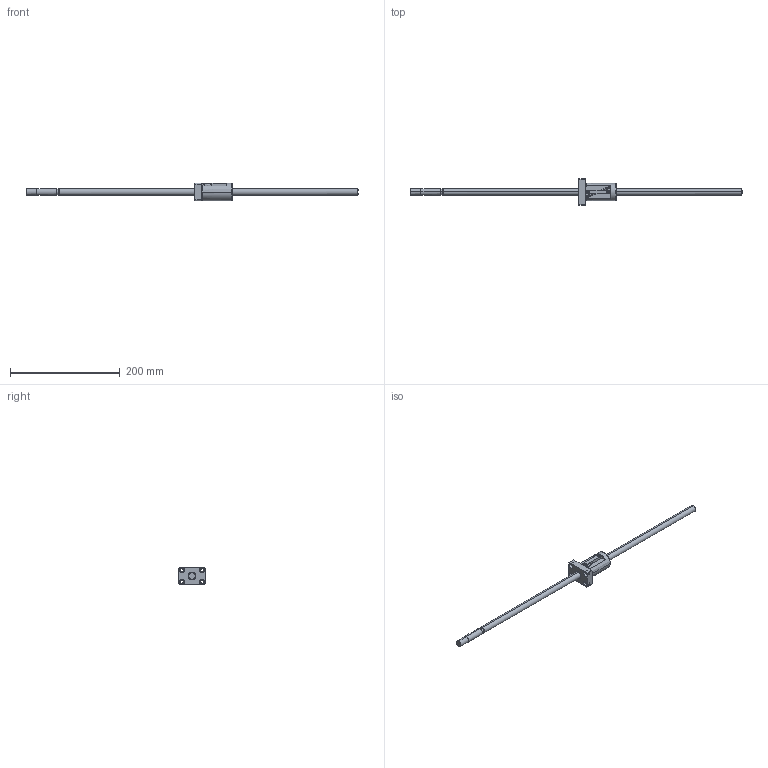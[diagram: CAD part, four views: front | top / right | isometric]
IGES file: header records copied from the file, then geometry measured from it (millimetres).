
Global section: file name: No Iges File Name specified; native system: AutoDesk Inventor R10; preprocessor: AutoDesk Inventor Iges Exporter R10; author: No Author specified; organization: No Organization specified; date: 20101224.140317; units: millimetre
Bounding box: 605 x 48 x 32 mm (x, y, z)
Surface area: 38049.7 mm2 (no closed solid volume)
Topology: 0 solids, 0 shells, 127 faces, 898 edges, 898 vertices
Faces by surface type: bspline 127
